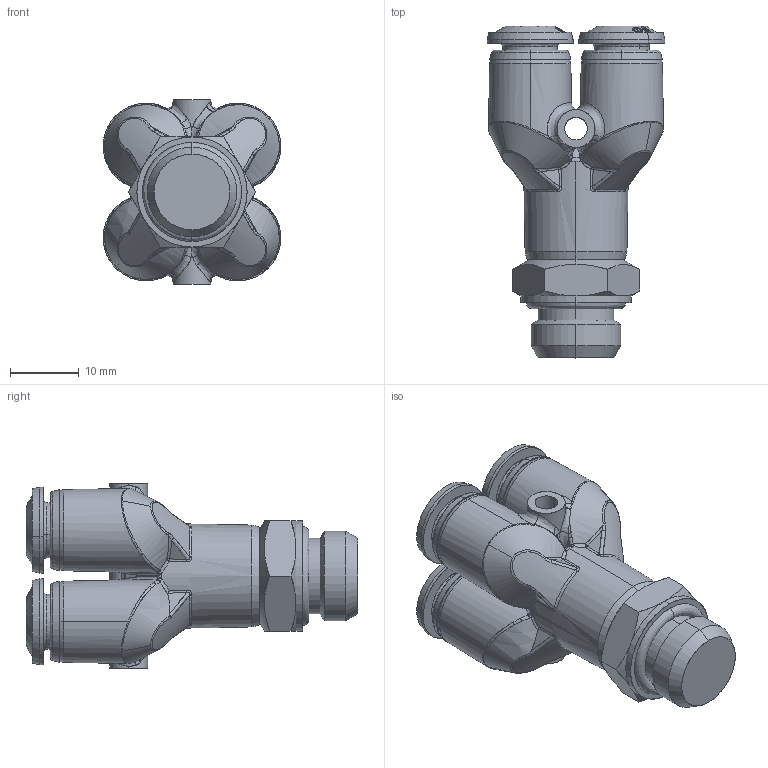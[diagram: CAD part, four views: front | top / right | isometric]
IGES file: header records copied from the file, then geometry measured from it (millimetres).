
Start section: SolidWorks IGES file using analytic representation for surfaces
Global section: file name: K:\Disegni Esecutivi\SERIE 55000\ASSIEMI_55000\55345\ASSIEMI_.IGES_55345\5534500004A.IGS; native system: SolidWorks 2016; preprocessor: SolidWorks 2016; author: cad06; date: 200924.112840; units: millimetre
Bounding box: 25.8 x 48.2 x 26.8 mm (x, y, z)
Surface area: 6892.4 mm2 (no closed solid volume)
Topology: 0 solids, 0 shells, 561 faces, 6111 edges, 6095 vertices
Faces by surface type: bspline 402, revolution 159
